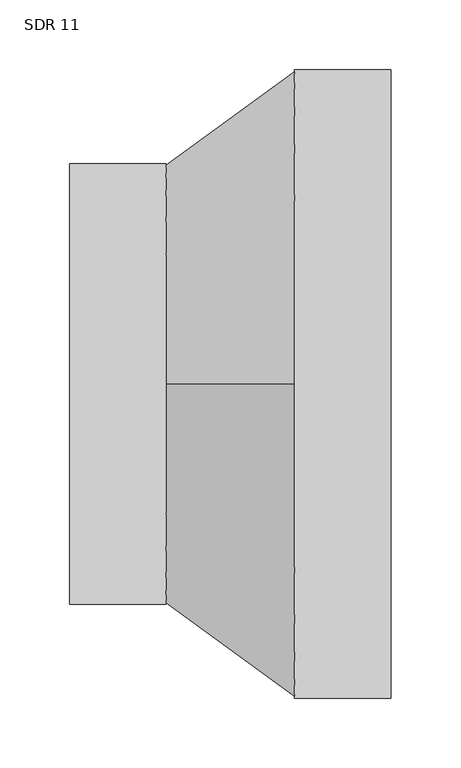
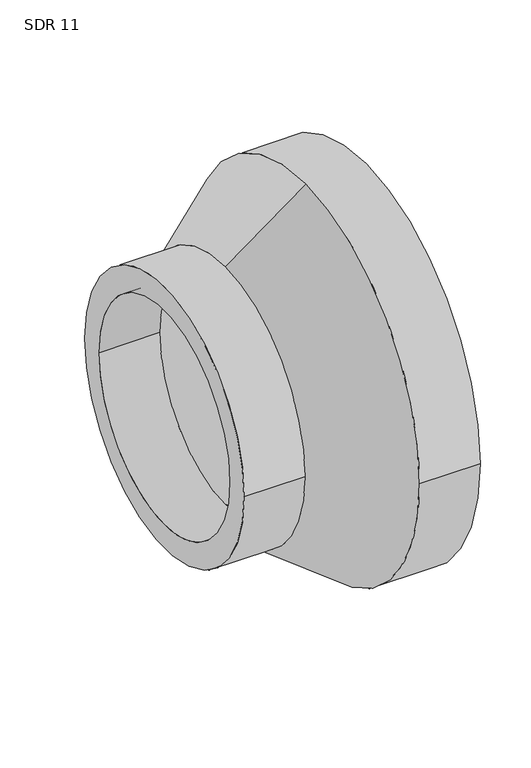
"""IFC4 building model written with IfcOpenShell, lengths in millimetres: pipe fitting geometry, Aquatherm - Reducing Coupling Combined - METRIC : SDR 11."""

from ifc_helpers import new_model, si_unit, frame, origin, place, context, project, spatial, polyline, circle_curve, source, transform, mapped, element, save
from ifc_brep_helpers import plane_surface, cylinder_surface, revolved_surface, advanced_brep


def sdr_11_581a1974(model_context):
    return source(origin(), model_context, "Body", "AdvancedBrep", [
        advanced_brep(
        [(-115.062, -157.48, 0.0), (-115.062, 157.48, 0.0), (-115.062, -128.8472727, 0.0), (-115.062, 128.8472727, 0.0), (-46.0248, 128.8472727, 0.0), (-46.0248, 0.0, 128.8472727), (-46.0248, -128.8472727, 0.0), (-46.0248, 0.0, -128.8472727), (-46.0248, 157.48, 0.0), (-46.0248, 0.0, -157.48), (-46.0248, -157.48, 0.0), (-46.0248, 0.0, 157.48), (115.062, -224.79, 0.0), (115.062, 224.79, 0.0), (115.062, -183.9190909, 0.0), (115.062, 183.9190909, 0.0), (46.0248, -224.79, 0.0), (46.0248, 0.0, -224.79), (46.0248, 224.79, 0.0), (46.0248, 0.0, 224.79), (46.0248, -183.9190909, 0.0), (46.0248, 0.0, 183.9190909), (46.0248, 183.9190909, 0.0), (46.0248, 0.0, -183.9190909)],
        [
            (0, 1, circle_curve(frame((-115.062, 0.0, 0.0), z_axis=(-1.0, 0.0, 0.0), x_axis=(0.0, 1.0, 0.0)), 157.48)),
            (1, 0, circle_curve(frame((-115.062, 0.0, 0.0), z_axis=(-1.0, 0.0, 0.0), x_axis=(0.0, 1.0, 0.0)), 157.48)),
            (2, 3, circle_curve(frame((-115.062, 0.0, 0.0), z_axis=(1.0, 0.0, 0.0), x_axis=(0.0, 1.0, 0.0)), 128.8472727)),
            (3, 2, circle_curve(frame((-115.062, 0.0, 0.0), z_axis=(1.0, 0.0, 0.0), x_axis=(0.0, 1.0, 0.0)), 128.8472727)),
            (3, 4),
            (4, 5, circle_curve(frame((-46.0248, 0.0, 0.0), z_axis=(1.0, 0.0, 0.0), x_axis=(0.0, 1.0, 0.0)), 128.8472727)),
            (5, 6, circle_curve(frame((-46.0248, 0.0, 0.0), z_axis=(1.0, 0.0, 0.0), x_axis=(0.0, 1.0, 0.0)), 128.8472727)),
            (6, 2),
            (6, 7, circle_curve(frame((-46.0248, 0.0, 0.0), z_axis=(1.0, 0.0, 0.0), x_axis=(0.0, 1.0, 0.0)), 128.8472727)),
            (7, 4, circle_curve(frame((-46.0248, 0.0, 0.0), z_axis=(1.0, 0.0, 0.0), x_axis=(0.0, 1.0, 0.0)), 128.8472727)),
            (1, 8),
            (8, 9, circle_curve(frame((-46.0248, 0.0, 0.0), z_axis=(-1.0, 0.0, 0.0), x_axis=(0.0, 1.0, 0.0)), 157.48)),
            (9, 10, circle_curve(frame((-46.0248, 0.0, 0.0), z_axis=(-1.0, 0.0, 0.0), x_axis=(0.0, 1.0, 0.0)), 157.48)),
            (10, 0),
            (10, 11, circle_curve(frame((-46.0248, 0.0, 0.0), z_axis=(-1.0, 0.0, 0.0), x_axis=(0.0, 1.0, 0.0)), 157.48)),
            (11, 8, circle_curve(frame((-46.0248, 0.0, 0.0), z_axis=(-1.0, 0.0, 0.0), x_axis=(0.0, 1.0, 0.0)), 157.48)),
            (12, 13, circle_curve(frame((115.062, 0.0, 0.0), z_axis=(1.0, 0.0, 0.0), x_axis=(0.0, 1.0, 0.0)), 224.79)),
            (13, 12, circle_curve(frame((115.062, 0.0, 0.0), z_axis=(1.0, 0.0, 0.0), x_axis=(0.0, 1.0, 0.0)), 224.79)),
            (14, 15, circle_curve(frame((115.062, 0.0, 0.0), z_axis=(-1.0, 0.0, 0.0), x_axis=(0.0, 1.0, 0.0)), 183.9190909)),
            (15, 14, circle_curve(frame((115.062, 0.0, 0.0), z_axis=(-1.0, 0.0, 0.0), x_axis=(0.0, 1.0, 0.0)), 183.9190909)),
            (12, 16),
            (16, 17, circle_curve(frame((46.0248, 0.0, 0.0), z_axis=(1.0, 0.0, 0.0), x_axis=(0.0, 1.0, 0.0)), 224.79)),
            (17, 18, circle_curve(frame((46.0248, 0.0, 0.0), z_axis=(1.0, 0.0, 0.0), x_axis=(0.0, 1.0, 0.0)), 224.79)),
            (18, 13),
            (18, 19, circle_curve(frame((46.0248, 0.0, 0.0), z_axis=(1.0, 0.0, 0.0), x_axis=(0.0, 1.0, 0.0)), 224.79)),
            (19, 16, circle_curve(frame((46.0248, 0.0, 0.0), z_axis=(1.0, 0.0, 0.0), x_axis=(0.0, 1.0, 0.0)), 224.79)),
            (14, 20),
            (20, 21, circle_curve(frame((46.0248, 0.0, 0.0), z_axis=(-1.0, 0.0, 0.0), x_axis=(0.0, 1.0, 0.0)), 183.9190909)),
            (21, 22, circle_curve(frame((46.0248, 0.0, 0.0), z_axis=(-1.0, 0.0, 0.0), x_axis=(0.0, 1.0, 0.0)), 183.9190909)),
            (22, 15),
            (22, 23, circle_curve(frame((46.0248, 0.0, 0.0), z_axis=(-1.0, 0.0, 0.0), x_axis=(0.0, 1.0, 0.0)), 183.9190909)),
            (23, 20, circle_curve(frame((46.0248, 0.0, 0.0), z_axis=(-1.0, 0.0, 0.0), x_axis=(0.0, 1.0, 0.0)), 183.9190909)),
            (11, 19),
            (17, 9),
            (21, 5),
            (7, 23),
        ],
        [
            plane_surface(frame((-115.062, 128.8472727, 0.0), z_axis=(-1.0, 0.0, 0.0), x_axis=(0.0, 0.0, 1.0))),
            revolved_surface(polyline([(-115.062, 128.8472727, 0.0), (-46.0248, 128.8472727, 0.0)]), (-115.062, 0.0, 0.0), (-1.0, 0.0, 0.0)),
            cylinder_surface(frame((0.0, 0.0, 0.0), z_axis=(1.0, 0.0, 0.0), x_axis=(0.0, 1.0, 0.0)), 157.48),
            plane_surface(frame((115.062, 224.79, 0.0), z_axis=(1.0, 0.0, 0.0), x_axis=(0.0, 0.0, 1.0))),
            cylinder_surface(frame((46.0248, 0.0, 0.0), z_axis=(1.0, 0.0, 0.0), x_axis=(0.0, 1.0, 0.0)), 224.79),
            revolved_surface(polyline([(46.0248, 183.9190909, 0.0), (115.062, 183.9190909, 0.0)]), (0.0, 0.0, 0.0), (-1.0, 0.0, 0.0)),
            revolved_surface(polyline([(46.0248, 0.0, 224.79), (-46.0248, 0.0, 157.48)]), (-690.3215384, 0.0, 0.0), (-1.0, 0.0, 0.0)),
            revolved_surface(polyline([(-46.0248, 0.0, 128.8472727), (46.0248, 0.0, 183.9190909)]), (-690.3215384, 0.0, 0.0), (-1.0, 0.0, 0.0)),
        ],
        [
            (0, [[1, 2], [3, 4]]),
            (1, [[-4, 5, 6, 7, 8]]),
            (1, [[-3, -8, 9, 10, -5]]),
            (2, [[-2, 11, 12, 13, 14]]),
            (2, [[-1, -14, 15, 16, -11]]),
            (3, [[17, 18], [19, 20]]),
            (4, [[-17, 21, 22, 23, 24]]),
            (4, [[-18, -24, 25, 26, -21]]),
            (5, [[-19, 27, 28, 29, 30]]),
            (5, [[-20, -30, 31, 32, -27]]),
            (6, [[33, -25, -23, 34, -12, -16]]),
            (6, [[-33, -15, -13, -34, -22, -26]]),
            (7, [[35, -6, -10, 36, -31, -29]]),
            (7, [[-35, -28, -32, -36, -9, -7]]),
        ],
    ),
    ])


if __name__ == "__main__":
    model = new_model("IFC4")
    model_context = context("Model", 3, world=origin())
    ifc_project = project(units=[si_unit("LENGTHUNIT", "METRE", prefix="MILLI")], contexts=[model_context])
    site = spatial("IfcSite", under=ifc_project)
    building = spatial("IfcBuilding", under=site)
    placement = place(None, origin())
    sdr_11_shape = sdr_11_581a1974(model_context)
    element("IfcPipeFitting", 1, ObjectType="Aquatherm - Reducing Coupling Combined - METRIC : SDR 11", at=placement, inside=building, context=model_context, shape_type="MappedRepresentation", body=[
        mapped(sdr_11_shape, transform((0.0, 0.0, 0.0), x_axis=(1.0, 0.0, 0.0), y_axis=(0.0, 1.0, 0.0), z_axis=(0.0, 0.0, 1.0))),
    ])
    save(model, "model.ifc")
